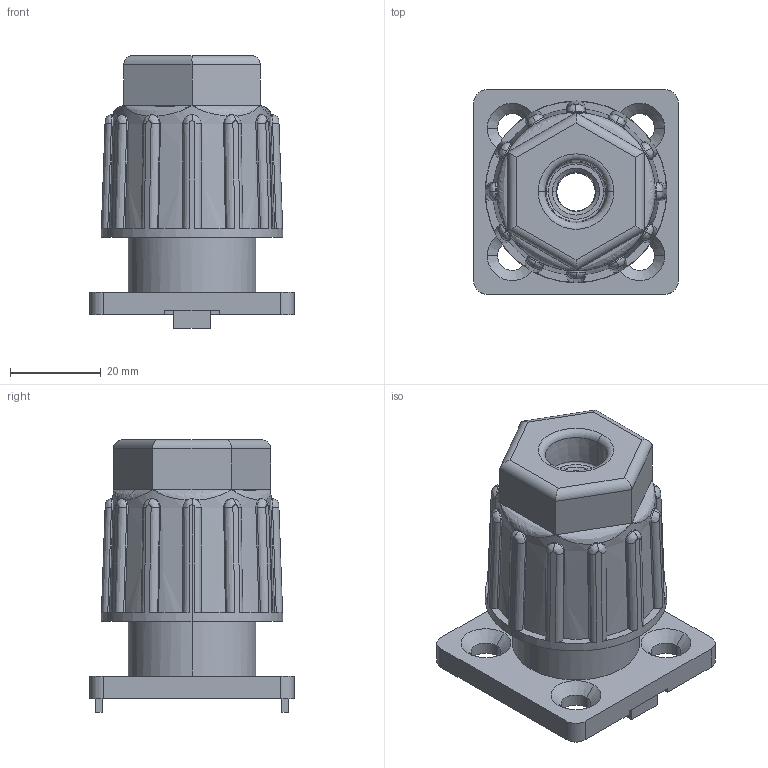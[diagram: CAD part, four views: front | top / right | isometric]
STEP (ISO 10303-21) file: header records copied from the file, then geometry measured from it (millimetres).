
FILE_DESCRIPTION(('STEP AP214'),'1');
FILE_NAME('fath_098h450808.stp','2017-05-01T06:09:55',('TraceParts'),('TraceParts S.A.'),'Spatial InterOp 3D',' ',' ');
FILE_SCHEMA(('automotive_design'));
Length unit declared in the file: millimetre
Products named in the file (2): fath_098h450808_1; fath_098h450808_2
Bounding box: 45 x 45 x 60 mm (x, y, z)
Volume: 39072.8 mm3; surface area: 22109.9 mm2
Topology: 2 solids, 2 shells, 401 faces, 1056 edges, 668 vertices
Faces by surface type: cylinder 162, plane 151, bspline 54, cone 24, torus 10
Entity records: 18806 total; most frequent: CARTESIAN_POINT 6397, ORIENTED_EDGE 2112, DIRECTION 1632, EDGE_CURVE 1056, VERTEX_POINT 668, AXIS2_PLACEMENT_3D 581, LINE 470, VECTOR 470
